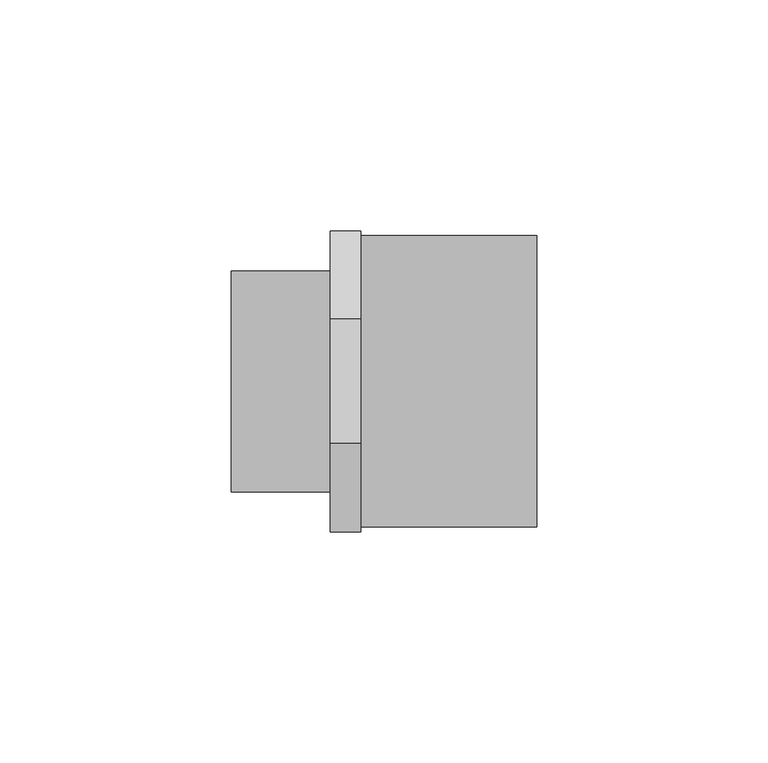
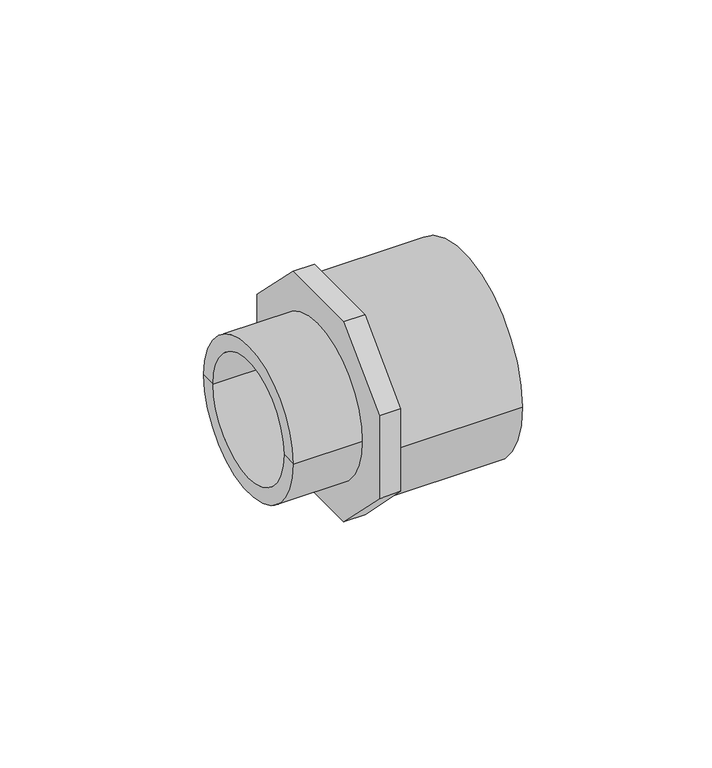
"""IFC4 building model written with IfcOpenShell, lengths in millimetres: pipe fitting geometry, Durapipe_PipeFitting_PVC_MaleThreadedAdaptors : 63 x 50 x G1-1⁄2."""

from ifc_helpers import new_model, si_unit, point, frame, origin, origin_2d, place, context, project, spatial, polyline, circle_curve, trimmed, segment, composite_curve, outline, extrude, source, transform, mapped, element, save
from ifc_brep_helpers import plane_surface, cylinder_surface, revolved_surface, advanced_brep


def pipe_fitting_749d7ce6(model_context):
    return source(origin(), model_context, "Body", "SolidModel", [
        extrude(outline(polyline([(32.5, 13.4619408), (32.5, -13.4619408), (13.4619408, -32.5), (-13.4619408, -32.5), (-32.5, -13.4619408), (-32.5, 13.4619408), (-13.4619408, 32.5), (13.4619408, 32.5), (32.5, 13.4619408)]), holes=[composite_curve([segment(trimmed(circle_curve(origin_2d(), 19.0), [point((19.0, 0.0))], [point((-19.0, 0.0))], True, "CARTESIAN"), True, "CONTINUOUS"), segment(trimmed(circle_curve(origin_2d(), 19.0), [point((-19.0, 0.0))], [point((19.0, 0.0))], True, "CARTESIAN"), True, "CONTINUOUS")], self_intersect=False)]), frame((-6.6, 0.0, 0.0), z_axis=(1.0, 0.0, 0.0), x_axis=(0.0, 1.0, 0.0)), (0.0, 0.0, 1.0), 6.6),
        advanced_brep(
        [(0.0, -31.5, 0.0), (0.0, 31.5, 0.0), (38.0, 31.5, 0.0), (38.0, -31.5, 0.0), (38.0, 25.0, 0.0), (38.0, -25.0, 0.0), (0.0, 0.0, 0.0), (7.0, 25.0, 0.0), (7.0, -25.0, 0.0), (7.0, 0.0, 0.0)],
        [
            (0, 1, circle_curve(frame((0.0, 0.0, 0.0), z_axis=(1.0, 0.0, 0.0), x_axis=(0.0, 1.0, 0.0)), 31.5)),
            (1, 2),
            (2, 3, circle_curve(frame((38.0, 0.0, 0.0), z_axis=(-1.0, 0.0, 0.0), x_axis=(0.0, 1.0, 0.0)), 31.5)),
            (3, 0),
            (1, 0, circle_curve(frame((0.0, 0.0, 0.0), z_axis=(1.0, 0.0, 0.0), x_axis=(0.0, 1.0, 0.0)), 31.5)),
            (3, 2, circle_curve(frame((38.0, 0.0, 0.0), z_axis=(-1.0, 0.0, 0.0), x_axis=(0.0, 1.0, 0.0)), 31.5)),
            (2, 4),
            (4, 5, circle_curve(frame((38.0, 0.0, 0.0), z_axis=(-1.0, 0.0, 0.0), x_axis=(0.0, 1.0, 0.0)), 25.0)),
            (5, 3),
            (5, 4, circle_curve(frame((38.0, 0.0, 0.0), z_axis=(-1.0, 0.0, 0.0), x_axis=(0.0, 1.0, 0.0)), 25.0)),
            (0, 6),
            (6, 1),
            (7, 8, circle_curve(frame((7.0, 0.0, 0.0), z_axis=(-1.0, 0.0, 0.0), x_axis=(0.0, 1.0, 0.0)), 25.0)),
            (8, 5),
            (4, 7),
            (8, 7, circle_curve(frame((7.0, 0.0, 0.0), z_axis=(-1.0, 0.0, 0.0), x_axis=(0.0, 1.0, 0.0)), 25.0)),
            (7, 9),
            (9, 8),
        ],
        [
            cylinder_surface(frame((439.4572068, 0.0, 0.0), z_axis=(-1.0, 0.0, 0.0), x_axis=(0.0, 1.0, 0.0)), 31.5),
            plane_surface(frame((38.0, 0.0, 0.0), z_axis=(1.0, 0.0, 0.0), x_axis=(0.0, 1.0, 0.0))),
            plane_surface(frame((0.0, 0.0, 0.0), z_axis=(-1.0, 0.0, 0.0), x_axis=(0.0, 1.0, 0.0))),
            revolved_surface(polyline([(7.0, 25.0, 0.0), (38.0, 25.0, 0.0)]), (51.5575137, 0.0, 0.0), (-1.0, 0.0, 0.0)),
            plane_surface(frame((7.0, 0.0, 0.0), z_axis=(1.0, 0.0, 0.0), x_axis=(0.0, 1.0, 0.0))),
        ],
        [
            (0, [[1, 2, 3, 4]]),
            (0, [[-2, 5, -4, 6]]),
            (1, [[-3, 7, 8, 9]]),
            (1, [[-6, -9, 10, -7]]),
            (2, [[-1, 11, 12]]),
            (2, [[-5, -12, -11]]),
            (3, [[13, 14, -8, 15]]),
            (3, [[16, -15, -10, -14]]),
            (4, [[-13, 17, 18]]),
            (4, [[-16, -18, -17]]),
        ],
    ),
        advanced_brep(
        [(-6.6, -19.0, 0.0), (-6.6, 19.0, 0.0), (-28.0, 19.0, 0.0), (-28.0, -19.0, 0.0), (-6.6, -23.9, 0.0), (-6.6, 23.9, 0.0), (-28.0, -23.9, 0.0), (-28.0, 23.9, 0.0)],
        [
            (0, 1, circle_curve(frame((-6.6, 0.0, 0.0), z_axis=(1.0, 0.0, 0.0), x_axis=(0.0, 1.0, 0.0)), 19.0)),
            (1, 2),
            (2, 3, circle_curve(frame((-28.0, 0.0, 0.0), z_axis=(-1.0, 0.0, 0.0), x_axis=(0.0, 1.0, 0.0)), 19.0)),
            (3, 0),
            (1, 0, circle_curve(frame((-6.6, 0.0, 0.0), z_axis=(1.0, 0.0, 0.0), x_axis=(0.0, 1.0, 0.0)), 19.0)),
            (3, 2, circle_curve(frame((-28.0, 0.0, 0.0), z_axis=(-1.0, 0.0, 0.0), x_axis=(0.0, 1.0, 0.0)), 19.0)),
            (4, 5, circle_curve(frame((-6.6, 0.0, 0.0), z_axis=(1.0, 0.0, 0.0), x_axis=(0.0, 1.0, 0.0)), 23.9)),
            (5, 1),
            (0, 4),
            (5, 4, circle_curve(frame((-6.6, 0.0, 0.0), z_axis=(1.0, 0.0, 0.0), x_axis=(0.0, 1.0, 0.0)), 23.9)),
            (6, 7, circle_curve(frame((-28.0, 0.0, 0.0), z_axis=(1.0, 0.0, 0.0), x_axis=(0.0, 1.0, 0.0)), 23.9)),
            (7, 5),
            (4, 6),
            (7, 6, circle_curve(frame((-28.0, 0.0, 0.0), z_axis=(1.0, 0.0, 0.0), x_axis=(0.0, 1.0, 0.0)), 23.9)),
            (2, 7),
            (6, 3),
        ],
        [
            revolved_surface(polyline([(-28.0, 19.0, 0.0), (-6.600000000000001, 19.0, 0.0)]), (-43.0, 0.0, 0.0), (-1.0, 0.0, 0.0)),
            plane_surface(frame((-6.6, 0.0, 0.0), z_axis=(1.0, 0.0, 0.0), x_axis=(0.0, 1.0, 0.0))),
            cylinder_surface(frame((-43.0, 0.0, 0.0), z_axis=(-1.0, 0.0, 0.0), x_axis=(0.0, 1.0, 0.0)), 23.9),
            plane_surface(frame((-28.0, 0.0, 0.0), z_axis=(-1.0, 0.0, 0.0), x_axis=(0.0, 1.0, 0.0))),
        ],
        [
            (0, [[1, 2, 3, 4]]),
            (0, [[5, -4, 6, -2]]),
            (1, [[7, 8, -1, 9]]),
            (1, [[10, -9, -5, -8]]),
            (2, [[11, 12, -7, 13]]),
            (2, [[14, -13, -10, -12]]),
            (3, [[-3, 15, -11, 16]]),
            (3, [[-6, -16, -14, -15]]),
        ],
    ),
    ])


if __name__ == "__main__":
    model = new_model("IFC4")
    model_context = context("Model", 3, world=origin())
    ifc_project = project(units=[si_unit("LENGTHUNIT", "METRE", prefix="MILLI")], contexts=[model_context])
    site = spatial("IfcSite", under=ifc_project)
    building = spatial("IfcBuilding", under=site)
    placement = place(None, origin())
    pipe_fitting_shape = pipe_fitting_749d7ce6(model_context)
    element("IfcPipeFitting", 1, ObjectType="Durapipe_PipeFitting_PVC_MaleThreadedAdaptors : 63 x 50 x G1-1⁄2", at=placement, inside=building, context=model_context, shape_type="MappedRepresentation", body=[
        mapped(pipe_fitting_shape, transform((0.0, 0.0, 0.0), x_axis=(1.0, 0.0, 0.0), y_axis=(0.0, 1.0, 0.0), z_axis=(0.0, 0.0, 1.0))),
    ])
    save(model, "model.ifc")
